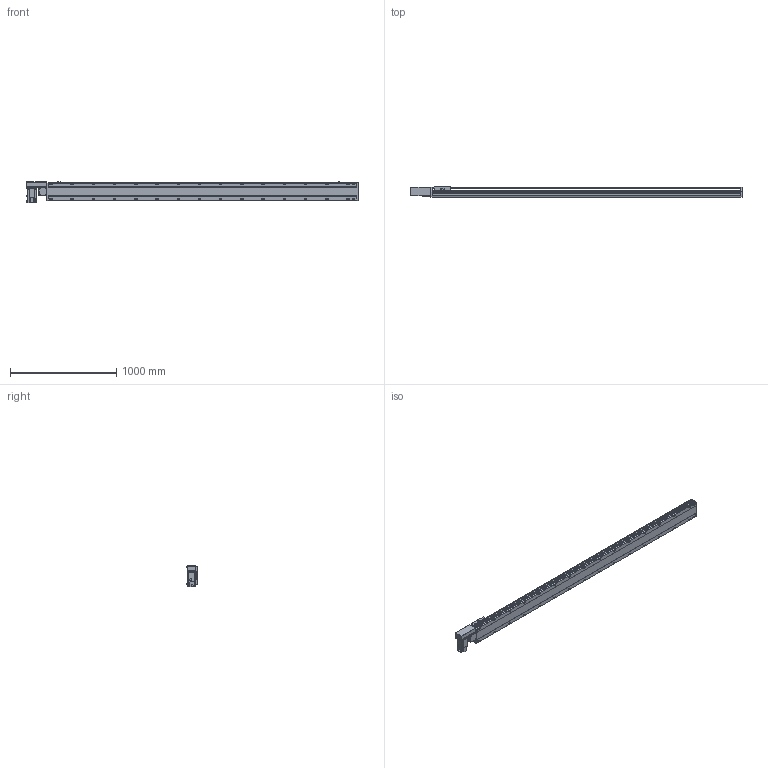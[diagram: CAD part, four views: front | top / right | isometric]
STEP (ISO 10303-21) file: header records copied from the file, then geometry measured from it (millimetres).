
FILE_DESCRIPTION( ( 'STEP AP214' ), '1' );
FILE_NAME( 'x:/temp/worker_4/temp/exporttempdir_2248_297_fmJF5/format_0/PBS170-P40-S2650-R-T75-C1-N(0).stp', '2022-06-07T07:32:56', ( 'License CC BY-ND 4.0' ), ( 'CADENAS' ), ' ', 'PARTsolutions', ' ' );
FILE_SCHEMA( ( 'AUTOMOTIVE_DESIGN { 1 0 10303 214 1 1 1 1 }' ) );
Length unit declared in the file: millimetre
Products named in the file (7): PBS170-P40-S2650-R-T75-C1-N(0); _PBS170-S2650()_body; _PBS170T-R_motors; _T75-p1; _PBS170_sliser; _PBS170_plant; _PBS170_sensor
Assembly tree (8 placements, depth 2):
  PBS170-P40-S2650-R-T75-C1-N(0)
    _PBS170-S2650()_body
    _PBS170T-R_motors
    _T75-p1
    _PBS170_sliser
    _PBS170_plant
    _PBS170_sensor  x3
Bounding box: 3128 x 97 x 205.3 mm (x, y, z)
Volume: 22744427.1 mm3; surface area: 2859692.9 mm2
Topology: 8 solids, 8 shells, 1210 faces, 3195 edges, 2082 vertices
Faces by surface type: plane 735, cylinder 403, cone 62, sphere 8, torus 2
Full cylindrical faces by diameter (mm): 3.242 x4, 4 x2, 4.4 x4, 4.5 x6, 4.917 x4, 6 x9, 6.647 x40, 7 x2, 7.5 x4, 8 x8, 8.5 x32, 10 x4, 10.5 x32, 11 x2, 30 x2, 40 x1, 70 x1
Entity records: 44876 total; most frequent: CARTESIAN_POINT 7565, DIRECTION 5860, ORIENTED_EDGE 5508, EDGE_CURVE 2754, AXIS2_PLACEMENT_3D 2077, VERTEX_POINT 1922, LINE 1706, VECTOR 1706
